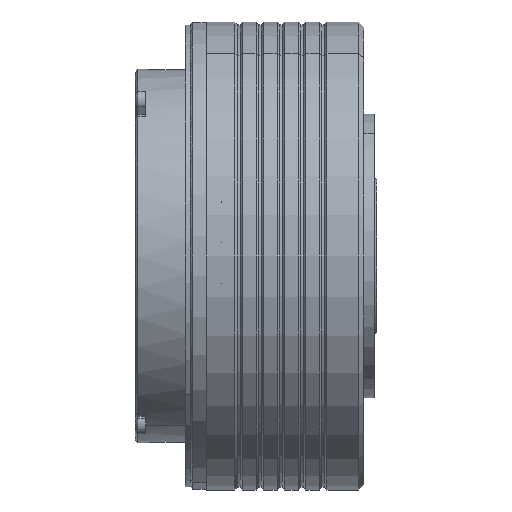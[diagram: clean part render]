
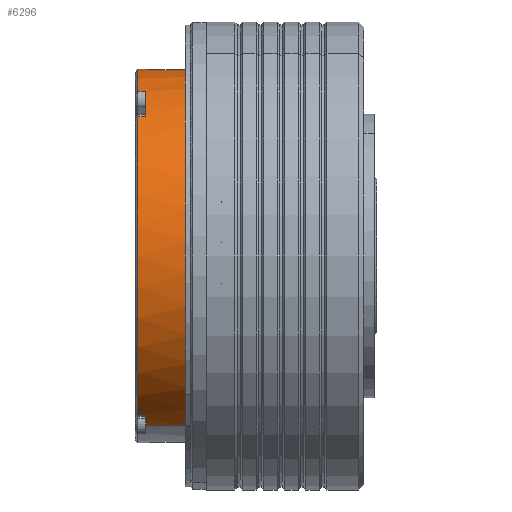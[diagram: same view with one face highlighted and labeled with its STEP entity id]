
A CAD part, left-side view. The second image highlights one B-rep face of the part: STEP entity #6296.
In plain terms, the highlighted cylindrical face has radius 35.5 mm (diameter 71 mm), a partial arc.
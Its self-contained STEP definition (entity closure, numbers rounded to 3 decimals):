
#53 = ORIENTED_EDGE ( 'NONE', *, *, #7385, .T. ) ;
#88 = ORIENTED_EDGE ( 'NONE', *, *, #5014, .T. ) ;
#111 = CIRCLE ( 'NONE', #12988, 35.5 ) ;
#765 = VECTOR ( 'NONE', #17310, 1000. ) ;
#788 = CARTESIAN_POINT ( 'NONE',  ( 14.24, 35., 32.519 ) ) ;
#895 = DIRECTION ( 'NONE',  ( 0., 1., 0. ) ) ;
#1115 = ORIENTED_EDGE ( 'NONE', *, *, #22756, .T. ) ;
#1360 = LINE ( 'NONE', #14049, #19163 ) ;
#1488 = LINE ( 'NONE', #15976, #19644 ) ;
#1756 = AXIS2_PLACEMENT_3D ( 'NONE', #13177, #4043, #5826 ) ;
#2050 = VERTEX_POINT ( 'NONE', #11335 ) ;
#2117 = VERTEX_POINT ( 'NONE', #20736 ) ;
#2178 = DIRECTION ( 'NONE',  ( 0., 1., 0. ) ) ;
#2255 = EDGE_CURVE ( 'NONE', #19677, #12369, #1360, .T. ) ;
#2537 = ORIENTED_EDGE ( 'NONE', *, *, #8749, .F. ) ;
#2632 = DIRECTION ( 'NONE',  ( 0.423, 0., 0.906 ) ) ;
#2661 = LINE ( 'NONE', #17172, #11744 ) ;
#3885 = ORIENTED_EDGE ( 'NONE', *, *, #23418, .T. ) ;
#4035 = AXIS2_PLACEMENT_3D ( 'NONE', #20656, #4823, #15160 ) ;
#4043 = DIRECTION ( 'NONE',  ( 0., 1., 0. ) ) ;
#4377 = EDGE_CURVE ( 'NONE', #5126, #7175, #8513, .T. ) ;
#4413 = CARTESIAN_POINT ( 'NONE',  ( 0., 26., 0. ) ) ;
#4823 = DIRECTION ( 'NONE',  ( 0., 1., 0. ) ) ;
#4912 = DIRECTION ( 'NONE',  ( 0., -1., 0. ) ) ;
#5014 = EDGE_CURVE ( 'NONE', #14343, #12346, #19957, .T. ) ;
#5072 = EDGE_CURVE ( 'NONE', #2117, #14569, #11217, .T. ) ;
#5126 = VERTEX_POINT ( 'NONE', #16066 ) ;
#5153 = DIRECTION ( 'NONE',  ( 0., -1., 0. ) ) ;
#5276 = EDGE_CURVE ( 'NONE', #2050, #21364, #10460, .T. ) ;
#5581 = CARTESIAN_POINT ( 'NONE',  ( -18.737, 36., -30.152 ) ) ;
#5812 = EDGE_CURVE ( 'NONE', #19677, #9974, #21116, .T. ) ;
#5826 = DIRECTION ( 'NONE',  ( 0.423, 0., 0.906 ) ) ;
#6107 = ORIENTED_EDGE ( 'NONE', *, *, #5276, .T. ) ;
#6296 = ADVANCED_FACE ( 'NONE', ( #23232 ), #10387, .T. ) ;
#6747 = CARTESIAN_POINT ( 'NONE',  ( 18.479, 35., 30.311 ) ) ;
#6774 = CARTESIAN_POINT ( 'NONE',  ( 0., 36., 0. ) ) ;
#6932 = DIRECTION ( 'NONE',  ( -0.423, 0., -0.906 ) ) ;
#7123 = CARTESIAN_POINT ( 'NONE',  ( -15.003, 34.5, -32.174 ) ) ;
#7175 = VERTEX_POINT ( 'NONE', #16829 ) ;
#7385 = EDGE_CURVE ( 'NONE', #14569, #7175, #1488, .T. ) ;
#7446 = LINE ( 'NONE', #13385, #18344 ) ;
#7683 = ORIENTED_EDGE ( 'NONE', *, *, #4377, .F. ) ;
#7781 = AXIS2_PLACEMENT_3D ( 'NONE', #20126, #9546, #18366 ) ;
#8260 = DIRECTION ( 'NONE',  ( 0., -1., 0. ) ) ;
#8513 = CIRCLE ( 'NONE', #7781, 35.5 ) ;
#8749 = EDGE_CURVE ( 'NONE', #2050, #19440, #10057, .T. ) ;
#9546 = DIRECTION ( 'NONE',  ( 0., 1., 0. ) ) ;
#9562 = CARTESIAN_POINT ( 'NONE',  ( -18.737, 34.5, -30.152 ) ) ;
#9880 = CARTESIAN_POINT ( 'NONE',  ( 0., 36., 0. ) ) ;
#9974 = VERTEX_POINT ( 'NONE', #9562 ) ;
#10057 = LINE ( 'NONE', #788, #765 ) ;
#10113 = EDGE_CURVE ( 'NONE', #5126, #14343, #2661, .T. ) ;
#10387 = CYLINDRICAL_SURFACE ( 'NONE', #12383, 35.5 ) ;
#10460 = CIRCLE ( 'NONE', #1756, 35.5 ) ;
#11217 = CIRCLE ( 'NONE', #17304, 35.5 ) ;
#11335 = CARTESIAN_POINT ( 'NONE',  ( 14.24, 35., 32.519 ) ) ;
#11534 = DIRECTION ( 'NONE',  ( 0.423, 0., 0.906 ) ) ;
#11744 = VECTOR ( 'NONE', #895, 1000. ) ;
#12346 = VERTEX_POINT ( 'NONE', #5581 ) ;
#12369 = VERTEX_POINT ( 'NONE', #16175 ) ;
#12383 = AXIS2_PLACEMENT_3D ( 'NONE', #12393, #5153, #6932 ) ;
#12393 = CARTESIAN_POINT ( 'NONE',  ( 0., 35., 0. ) ) ;
#12895 = ORIENTED_EDGE ( 'NONE', *, *, #2255, .T. ) ;
#12972 = LINE ( 'NONE', #20245, #18210 ) ;
#12988 = AXIS2_PLACEMENT_3D ( 'NONE', #4413, #22714, #11534 ) ;
#13008 = ORIENTED_EDGE ( 'NONE', *, *, #5812, .F. ) ;
#13177 = CARTESIAN_POINT ( 'NONE',  ( 0., 35., 0. ) ) ;
#13385 = CARTESIAN_POINT ( 'NONE',  ( -18.737, 35., -30.152 ) ) ;
#13670 = DIRECTION ( 'NONE',  ( 0., -1., 0. ) ) ;
#14049 = CARTESIAN_POINT ( 'NONE',  ( -15.003, 35., -32.174 ) ) ;
#14292 = DIRECTION ( 'NONE',  ( 0., -1., 0. ) ) ;
#14343 = VERTEX_POINT ( 'NONE', #15491 ) ;
#14569 = VERTEX_POINT ( 'NONE', #14639 ) ;
#14639 = CARTESIAN_POINT ( 'NONE',  ( -16.744, 36., 31.303 ) ) ;
#15160 = DIRECTION ( 'NONE',  ( -0.996, 0., -0.087 ) ) ;
#15197 = EDGE_CURVE ( 'NONE', #21364, #2117, #12972, .T. ) ;
#15491 = CARTESIAN_POINT ( 'NONE',  ( -23.689, 36., 26.441 ) ) ;
#15976 = CARTESIAN_POINT ( 'NONE',  ( -16.744, 35., 31.303 ) ) ;
#16066 = CARTESIAN_POINT ( 'NONE',  ( -23.689, 34.5, 26.441 ) ) ;
#16175 = CARTESIAN_POINT ( 'NONE',  ( -15.003, 26., -32.174 ) ) ;
#16829 = CARTESIAN_POINT ( 'NONE',  ( -16.744, 34.5, 31.303 ) ) ;
#17172 = CARTESIAN_POINT ( 'NONE',  ( -23.689, 35., 26.441 ) ) ;
#17304 = AXIS2_PLACEMENT_3D ( 'NONE', #9880, #13670, #2632 ) ;
#17310 = DIRECTION ( 'NONE',  ( 0., -1., 0. ) ) ;
#17744 = CARTESIAN_POINT ( 'NONE',  ( 14.24, 26., 32.519 ) ) ;
#18210 = VECTOR ( 'NONE', #2178, 1000. ) ;
#18344 = VECTOR ( 'NONE', #8260, 1000. ) ;
#18366 = DIRECTION ( 'NONE',  ( 0.423, 0., 0.906 ) ) ;
#18486 = ORIENTED_EDGE ( 'NONE', *, *, #15197, .T. ) ;
#19163 = VECTOR ( 'NONE', #14292, 1000. ) ;
#19345 = EDGE_LOOP ( 'NONE', ( #22230, #88, #3885, #13008, #12895, #1115, #2537, #6107, #18486, #21993, #53, #7683 ) ) ;
#19440 = VERTEX_POINT ( 'NONE', #17744 ) ;
#19644 = VECTOR ( 'NONE', #4912, 1000. ) ;
#19677 = VERTEX_POINT ( 'NONE', #7123 ) ;
#19957 = CIRCLE ( 'NONE', #22997, 35.5 ) ;
#20126 = CARTESIAN_POINT ( 'NONE',  ( 0., 34.5, 0. ) ) ;
#20245 = CARTESIAN_POINT ( 'NONE',  ( 18.479, 35., 30.311 ) ) ;
#20656 = CARTESIAN_POINT ( 'NONE',  ( 0., 34.5, 0. ) ) ;
#20736 = CARTESIAN_POINT ( 'NONE',  ( 18.479, 36., 30.311 ) ) ;
#21116 = CIRCLE ( 'NONE', #4035, 35.5 ) ;
#21364 = VERTEX_POINT ( 'NONE', #6747 ) ;
#21993 = ORIENTED_EDGE ( 'NONE', *, *, #5072, .T. ) ;
#22230 = ORIENTED_EDGE ( 'NONE', *, *, #10113, .T. ) ;
#22605 = DIRECTION ( 'NONE',  ( 0.423, 0., 0.906 ) ) ;
#22714 = DIRECTION ( 'NONE',  ( 0., 1., 0. ) ) ;
#22756 = EDGE_CURVE ( 'NONE', #12369, #19440, #111, .T. ) ;
#22838 = DIRECTION ( 'NONE',  ( 0., -1., 0. ) ) ;
#22997 = AXIS2_PLACEMENT_3D ( 'NONE', #6774, #22838, #22605 ) ;
#23232 = FACE_OUTER_BOUND ( 'NONE', #19345, .T. ) ;
#23418 = EDGE_CURVE ( 'NONE', #12346, #9974, #7446, .T. ) ;
